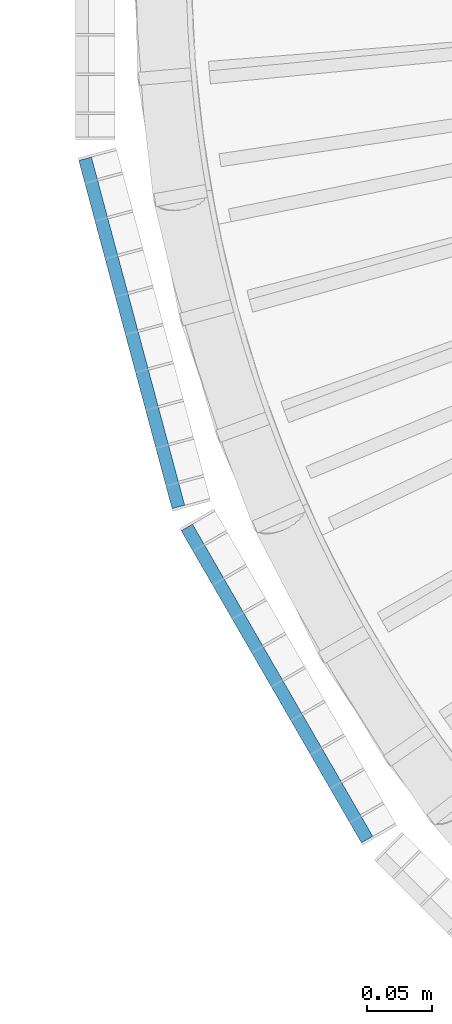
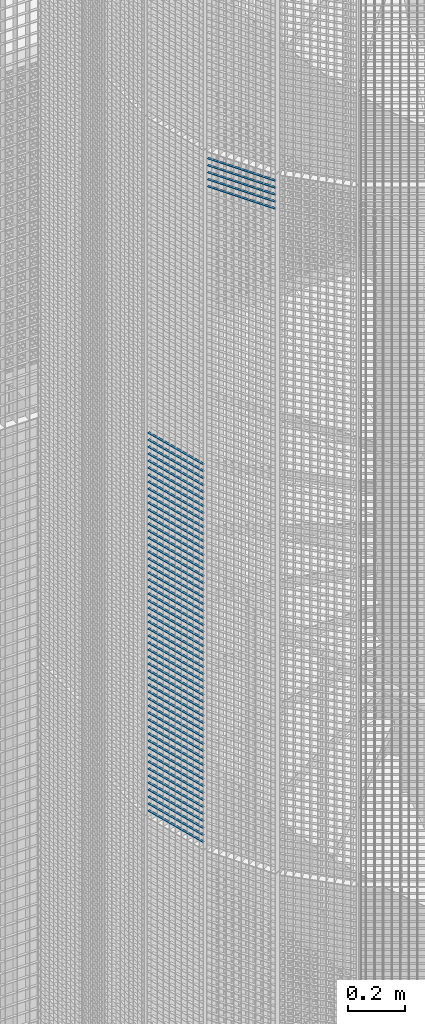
# One storey, part 341 of 1148: 60 beams, 2 elements without a shape of their own.
"""IFC2X3 building model written with IfcOpenShell, lengths in millimetres."""

from ifc_helpers import new_model, si_unit, frame, origin_with_axes, origin_2d_with_axis, place, context, subcontext, project, spatial, rectangle, extrude, material, type_object, element, aggregate, save


model = new_model("IFC2X3")

# Units and contexts
model_context = context("Model", 3, precision=1e-05, world=origin_with_axes())
body_context = subcontext(model_context, "Body", "Model", "MODEL_VIEW")
ifc_project = project(units=[si_unit("LENGTHUNIT", "METRE", prefix="MILLI"), si_unit("AREAUNIT", "SQUARE_METRE"), si_unit("VOLUMEUNIT", "CUBIC_METRE"), si_unit("MASSUNIT", "GRAM", prefix="KILO"), si_unit("TIMEUNIT", "SECOND"), si_unit("PLANEANGLEUNIT", "RADIAN"), si_unit("SOLIDANGLEUNIT", "STERADIAN"), si_unit("THERMODYNAMICTEMPERATUREUNIT", "DEGREE_CELSIUS"), si_unit("LUMINOUSINTENSITYUNIT", "LUMEN")], contexts=[model_context])

# Site, building, storey
site_placement = place(None, origin_with_axes())
site = spatial("IfcSite", under=ifc_project, at=site_placement, Name="Undefined", CompositionType="ELEMENT")
building_placement = place(site_placement, origin_with_axes())
building = spatial("IfcBuilding", under=site, at=building_placement, Name="Undefined", CompositionType="ELEMENT")
storey_placement = place(building_placement, origin_with_axes())
storey = spatial("IfcBuildingStorey", under=building, at=storey_placement, Name="Undefined", CompositionType="ELEMENT", Elevation=0.0)

# Assembly, beams
assembly_1_placement = place(storey_placement, origin_with_axes())
assembly_1 = element("IfcElementAssembly", 1, at=assembly_1_placement, inside=storey, Name="BORDURE", AssemblyPlace="NOTDEFINED", PredefinedType="NOTDEFINED")
ifc_material = material(Name="STEEL/S235JR")
beam_type = type_object("IfcBeamType", Name="PL2*10", PredefinedType="NOTDEFINED")
beam_1_placement = place(assembly_1_placement, frame((20560.1769047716, -421.483733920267, 10650.0), z_axis=(-0.965925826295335, -0.258819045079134, 0.0), x_axis=(-0.258819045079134, 0.965925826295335, 0.0)))
beam_1 = element("IfcBeam", 2, at=beam_1_placement, type_object=beam_type, material=ifc_material, Name="ENTRETOISE", context=body_context, shape_type="SweptSolid", body=[
    extrude(rectangle(XDim=2.0, YDim=10.0, at=origin_2d_with_axis()), frame((275.999999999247, 9.09494701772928e-13, 1.53210777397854e-14), z_axis=(-1.0, 0.0, 0.0), x_axis=(0.0, -1.0, 0.0)), (0.0, 0.0, 1.0), 276.0),
])
beam_2_placement = place(assembly_1_placement, frame((20560.1769047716, -421.483733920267, 10620.0), z_axis=(-0.965925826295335, -0.258819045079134, 0.0), x_axis=(-0.258819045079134, 0.965925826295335, 0.0)))
beam_2 = element("IfcBeam", 3, at=beam_2_placement, type_object=beam_type, material=ifc_material, Name="ENTRETOISE", context=body_context, shape_type="SweptSolid", body=[
    extrude(rectangle(XDim=2.0, YDim=10.0, at=origin_2d_with_axis()), frame((275.999999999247, 9.09494701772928e-13, 1.53210777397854e-14), z_axis=(-1.0, 0.0, 0.0), x_axis=(0.0, -1.0, 0.0)), (0.0, 0.0, 1.0), 276.0),
])
beam_3_placement = place(assembly_1_placement, frame((20560.1769047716, -421.483733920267, 10590.0), z_axis=(-0.965925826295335, -0.258819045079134, 0.0), x_axis=(-0.258819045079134, 0.965925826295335, 0.0)))
beam_3 = element("IfcBeam", 4, at=beam_3_placement, type_object=beam_type, material=ifc_material, Name="ENTRETOISE", context=body_context, shape_type="SweptSolid", body=[
    extrude(rectangle(XDim=2.0, YDim=10.0, at=origin_2d_with_axis()), frame((275.999999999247, 9.09494701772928e-13, 1.53210777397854e-14), z_axis=(-1.0, 0.0, 0.0), x_axis=(0.0, -1.0, 0.0)), (0.0, 0.0, 1.0), 276.0),
])
beam_4_placement = place(assembly_1_placement, frame((20560.1769047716, -421.483733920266, 10560.0), z_axis=(-0.965925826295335, -0.258819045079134, 0.0), x_axis=(-0.258819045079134, 0.965925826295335, 0.0)))
beam_4 = element("IfcBeam", 5, at=beam_4_placement, type_object=beam_type, material=ifc_material, Name="ENTRETOISE", context=body_context, shape_type="SweptSolid", body=[
    extrude(rectangle(XDim=2.0, YDim=10.0, at=origin_2d_with_axis()), frame((275.999999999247, 9.09494701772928e-13, 1.53210777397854e-14), z_axis=(-1.0, 0.0, 0.0), x_axis=(0.0, -1.0, 0.0)), (0.0, 0.0, 1.0), 276.0),
])
beam_5_placement = place(assembly_1_placement, frame((20560.1769047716, -421.483733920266, 10530.0), z_axis=(-0.965925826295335, -0.258819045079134, 0.0), x_axis=(-0.258819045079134, 0.965925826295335, 0.0)))
beam_5 = element("IfcBeam", 6, at=beam_5_placement, type_object=beam_type, material=ifc_material, Name="ENTRETOISE", context=body_context, shape_type="SweptSolid", body=[
    extrude(rectangle(XDim=2.0, YDim=10.0, at=origin_2d_with_axis()), frame((275.999999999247, 9.09494701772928e-13, 1.53210777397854e-14), z_axis=(-1.0, 0.0, 0.0), x_axis=(0.0, -1.0, 0.0)), (0.0, 0.0, 1.0), 276.0),
])
beam_6_placement = place(assembly_1_placement, frame((20560.1769047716, -421.483733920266, 10500.0), z_axis=(-0.965925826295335, -0.258819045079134, 0.0), x_axis=(-0.258819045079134, 0.965925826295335, 0.0)))
beam_6 = element("IfcBeam", 7, at=beam_6_placement, type_object=beam_type, material=ifc_material, Name="ENTRETOISE", context=body_context, shape_type="SweptSolid", body=[
    extrude(rectangle(XDim=2.0, YDim=10.0, at=origin_2d_with_axis()), frame((275.999999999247, 9.09494701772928e-13, 1.53210777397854e-14), z_axis=(-1.0, 0.0, 0.0), x_axis=(0.0, -1.0, 0.0)), (0.0, 0.0, 1.0), 276.0),
])
beam_7_placement = place(assembly_1_placement, frame((20560.1769047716, -421.483733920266, 10470.0), z_axis=(-0.965925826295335, -0.258819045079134, 0.0), x_axis=(-0.258819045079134, 0.965925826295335, 0.0)))
beam_7 = element("IfcBeam", 8, at=beam_7_placement, type_object=beam_type, material=ifc_material, Name="ENTRETOISE", context=body_context, shape_type="SweptSolid", body=[
    extrude(rectangle(XDim=2.0, YDim=10.0, at=origin_2d_with_axis()), frame((275.999999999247, 9.09494701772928e-13, 1.53210777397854e-14), z_axis=(-1.0, 0.0, 0.0), x_axis=(0.0, -1.0, 0.0)), (0.0, 0.0, 1.0), 276.0),
])
beam_8_placement = place(assembly_1_placement, frame((20560.1769047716, -421.483733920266, 10440.0), z_axis=(-0.965925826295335, -0.258819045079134, 0.0), x_axis=(-0.258819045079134, 0.965925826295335, 0.0)))
beam_8 = element("IfcBeam", 9, at=beam_8_placement, type_object=beam_type, material=ifc_material, Name="ENTRETOISE", context=body_context, shape_type="SweptSolid", body=[
    extrude(rectangle(XDim=2.0, YDim=10.0, at=origin_2d_with_axis()), frame((275.999999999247, 9.09494701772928e-13, 1.53210777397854e-14), z_axis=(-1.0, 0.0, 0.0), x_axis=(0.0, -1.0, 0.0)), (0.0, 0.0, 1.0), 276.0),
])
beam_9_placement = place(assembly_1_placement, frame((20560.1769047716, -421.483733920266, 10410.0), z_axis=(-0.965925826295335, -0.258819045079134, 0.0), x_axis=(-0.258819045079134, 0.965925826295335, 0.0)))
beam_9 = element("IfcBeam", 10, at=beam_9_placement, type_object=beam_type, material=ifc_material, Name="ENTRETOISE", context=body_context, shape_type="SweptSolid", body=[
    extrude(rectangle(XDim=2.0, YDim=10.0, at=origin_2d_with_axis()), frame((275.999999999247, 9.09494701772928e-13, 1.53210777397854e-14), z_axis=(-1.0, 0.0, 0.0), x_axis=(0.0, -1.0, 0.0)), (0.0, 0.0, 1.0), 276.0),
])
beam_10_placement = place(assembly_1_placement, frame((20560.1769047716, -421.483733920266, 10380.0), z_axis=(-0.965925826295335, -0.258819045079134, 0.0), x_axis=(-0.258819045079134, 0.965925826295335, 0.0)))
beam_10 = element("IfcBeam", 11, at=beam_10_placement, type_object=beam_type, material=ifc_material, Name="ENTRETOISE", context=body_context, shape_type="SweptSolid", body=[
    extrude(rectangle(XDim=2.0, YDim=10.0, at=origin_2d_with_axis()), frame((275.999999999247, 9.09494701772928e-13, 1.53210777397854e-14), z_axis=(-1.0, 0.0, 0.0), x_axis=(0.0, -1.0, 0.0)), (0.0, 0.0, 1.0), 276.0),
])
beam_11_placement = place(assembly_1_placement, frame((20560.1769047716, -421.483733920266, 10350.0), z_axis=(-0.965925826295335, -0.258819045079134, 0.0), x_axis=(-0.258819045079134, 0.965925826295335, 0.0)))
beam_11 = element("IfcBeam", 12, at=beam_11_placement, type_object=beam_type, material=ifc_material, Name="ENTRETOISE", context=body_context, shape_type="SweptSolid", body=[
    extrude(rectangle(XDim=2.0, YDim=10.0, at=origin_2d_with_axis()), frame((275.999999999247, 9.09494701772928e-13, 1.53210777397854e-14), z_axis=(-1.0, 0.0, 0.0), x_axis=(0.0, -1.0, 0.0)), (0.0, 0.0, 1.0), 276.0),
])
beam_12_placement = place(assembly_1_placement, frame((20560.1769047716, -421.483733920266, 10320.0), z_axis=(-0.965925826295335, -0.258819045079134, 0.0), x_axis=(-0.258819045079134, 0.965925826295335, 0.0)))
beam_12 = element("IfcBeam", 13, at=beam_12_placement, type_object=beam_type, material=ifc_material, Name="ENTRETOISE", context=body_context, shape_type="SweptSolid", body=[
    extrude(rectangle(XDim=2.0, YDim=10.0, at=origin_2d_with_axis()), frame((275.999999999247, 9.09494701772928e-13, 1.53210777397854e-14), z_axis=(-1.0, 0.0, 0.0), x_axis=(0.0, -1.0, 0.0)), (0.0, 0.0, 1.0), 276.0),
])
beam_13_placement = place(assembly_1_placement, frame((20560.1769047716, -421.483733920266, 10290.0), z_axis=(-0.965925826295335, -0.258819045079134, 0.0), x_axis=(-0.258819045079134, 0.965925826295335, 0.0)))
beam_13 = element("IfcBeam", 14, at=beam_13_placement, type_object=beam_type, material=ifc_material, Name="ENTRETOISE", context=body_context, shape_type="SweptSolid", body=[
    extrude(rectangle(XDim=2.0, YDim=10.0, at=origin_2d_with_axis()), frame((275.999999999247, 9.09494701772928e-13, 1.53210777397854e-14), z_axis=(-1.0, 0.0, 0.0), x_axis=(0.0, -1.0, 0.0)), (0.0, 0.0, 1.0), 276.0),
])
beam_14_placement = place(assembly_1_placement, frame((20560.1769047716, -421.483733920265, 10260.0), z_axis=(-0.965925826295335, -0.258819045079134, 0.0), x_axis=(-0.258819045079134, 0.965925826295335, 0.0)))
beam_14 = element("IfcBeam", 15, at=beam_14_placement, type_object=beam_type, material=ifc_material, Name="ENTRETOISE", context=body_context, shape_type="SweptSolid", body=[
    extrude(rectangle(XDim=2.0, YDim=10.0, at=origin_2d_with_axis()), frame((275.999999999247, 9.09494701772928e-13, 1.53210777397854e-14), z_axis=(-1.0, 0.0, 0.0), x_axis=(0.0, -1.0, 0.0)), (0.0, 0.0, 1.0), 276.0),
])
beam_15_placement = place(assembly_1_placement, frame((20560.1769047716, -421.483733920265, 10230.0), z_axis=(-0.965925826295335, -0.258819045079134, 0.0), x_axis=(-0.258819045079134, 0.965925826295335, 0.0)))
beam_15 = element("IfcBeam", 16, at=beam_15_placement, type_object=beam_type, material=ifc_material, Name="ENTRETOISE", context=body_context, shape_type="SweptSolid", body=[
    extrude(rectangle(XDim=2.0, YDim=10.0, at=origin_2d_with_axis()), frame((275.999999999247, 9.09494701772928e-13, 1.53210777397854e-14), z_axis=(-1.0, 0.0, 0.0), x_axis=(0.0, -1.0, 0.0)), (0.0, 0.0, 1.0), 276.0),
])
beam_16_placement = place(assembly_1_placement, frame((20560.1769047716, -421.483733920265, 10200.0), z_axis=(-0.965925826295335, -0.258819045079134, 0.0), x_axis=(-0.258819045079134, 0.965925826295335, 0.0)))
beam_16 = element("IfcBeam", 17, at=beam_16_placement, type_object=beam_type, material=ifc_material, Name="ENTRETOISE", context=body_context, shape_type="SweptSolid", body=[
    extrude(rectangle(XDim=2.0, YDim=10.0, at=origin_2d_with_axis()), frame((275.999999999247, 9.09494701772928e-13, 1.53210777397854e-14), z_axis=(-1.0, 0.0, 0.0), x_axis=(0.0, -1.0, 0.0)), (0.0, 0.0, 1.0), 276.0),
])
beam_17_placement = place(assembly_1_placement, frame((20560.1769047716, -421.483733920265, 10170.0), z_axis=(-0.965925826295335, -0.258819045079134, 0.0), x_axis=(-0.258819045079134, 0.965925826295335, 0.0)))
beam_17 = element("IfcBeam", 18, at=beam_17_placement, type_object=beam_type, material=ifc_material, Name="ENTRETOISE", context=body_context, shape_type="SweptSolid", body=[
    extrude(rectangle(XDim=2.0, YDim=10.0, at=origin_2d_with_axis()), frame((275.999999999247, 9.09494701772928e-13, 1.53210777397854e-14), z_axis=(-1.0, 0.0, 0.0), x_axis=(0.0, -1.0, 0.0)), (0.0, 0.0, 1.0), 276.0),
])
beam_18_placement = place(assembly_1_placement, frame((20560.1769047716, -421.483733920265, 10140.0), z_axis=(-0.965925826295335, -0.258819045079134, 0.0), x_axis=(-0.258819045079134, 0.965925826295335, 0.0)))
beam_18 = element("IfcBeam", 19, at=beam_18_placement, type_object=beam_type, material=ifc_material, Name="ENTRETOISE", context=body_context, shape_type="SweptSolid", body=[
    extrude(rectangle(XDim=2.0, YDim=10.0, at=origin_2d_with_axis()), frame((275.999999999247, 9.09494701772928e-13, 1.53210777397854e-14), z_axis=(-1.0, 0.0, 0.0), x_axis=(0.0, -1.0, 0.0)), (0.0, 0.0, 1.0), 276.0),
])
beam_19_placement = place(assembly_1_placement, frame((20560.1769047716, -421.483733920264, 9720.0), z_axis=(-0.965925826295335, -0.258819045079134, 0.0), x_axis=(-0.258819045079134, 0.965925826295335, 0.0)))
beam_19 = element("IfcBeam", 20, at=beam_19_placement, type_object=beam_type, material=ifc_material, Name="ENTRETOISE", context=body_context, shape_type="SweptSolid", body=[
    extrude(rectangle(XDim=2.0, YDim=10.0, at=origin_2d_with_axis()), frame((275.999999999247, 9.09494701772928e-13, 1.53210777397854e-14), z_axis=(-1.0, 0.0, 0.0), x_axis=(0.0, -1.0, 0.0)), (0.0, 0.0, 1.0), 276.0),
])
beam_20_placement = place(assembly_1_placement, frame((20560.1769047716, -421.483733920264, 9690.0), z_axis=(-0.965925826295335, -0.258819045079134, 0.0), x_axis=(-0.258819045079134, 0.965925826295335, 0.0)))
beam_20 = element("IfcBeam", 21, at=beam_20_placement, type_object=beam_type, material=ifc_material, Name="ENTRETOISE", context=body_context, shape_type="SweptSolid", body=[
    extrude(rectangle(XDim=2.0, YDim=10.0, at=origin_2d_with_axis()), frame((275.999999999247, 9.09494701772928e-13, 1.53210777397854e-14), z_axis=(-1.0, 0.0, 0.0), x_axis=(0.0, -1.0, 0.0)), (0.0, 0.0, 1.0), 276.0),
])
beam_21_placement = place(assembly_1_placement, frame((20560.1769047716, -421.483733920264, 9750.0), z_axis=(-0.965925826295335, -0.258819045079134, 0.0), x_axis=(-0.258819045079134, 0.965925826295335, 0.0)))
beam_21 = element("IfcBeam", 22, at=beam_21_placement, type_object=beam_type, material=ifc_material, Name="ENTRETOISE", context=body_context, shape_type="SweptSolid", body=[
    extrude(rectangle(XDim=2.0, YDim=10.0, at=origin_2d_with_axis()), frame((275.999999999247, 9.09494701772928e-13, 1.53210777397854e-14), z_axis=(-1.0, 0.0, 0.0), x_axis=(0.0, -1.0, 0.0)), (0.0, 0.0, 1.0), 276.0),
])
beam_22_placement = place(assembly_1_placement, frame((20560.1769047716, -421.483733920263, 9660.0), z_axis=(-0.965925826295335, -0.258819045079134, 0.0), x_axis=(-0.258819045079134, 0.965925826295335, 0.0)))
beam_22 = element("IfcBeam", 23, at=beam_22_placement, type_object=beam_type, material=ifc_material, Name="ENTRETOISE", context=body_context, shape_type="SweptSolid", body=[
    extrude(rectangle(XDim=2.0, YDim=10.0, at=origin_2d_with_axis()), frame((275.999999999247, 9.09494701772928e-13, 1.53210777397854e-14), z_axis=(-1.0, 0.0, 0.0), x_axis=(0.0, -1.0, 0.0)), (0.0, 0.0, 1.0), 276.0),
])
beam_23_placement = place(assembly_1_placement, frame((20560.1769047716, -421.483733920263, 9630.0), z_axis=(-0.965925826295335, -0.258819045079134, 0.0), x_axis=(-0.258819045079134, 0.965925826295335, 0.0)))
beam_23 = element("IfcBeam", 24, at=beam_23_placement, type_object=beam_type, material=ifc_material, Name="ENTRETOISE", context=body_context, shape_type="SweptSolid", body=[
    extrude(rectangle(XDim=2.0, YDim=10.0, at=origin_2d_with_axis()), frame((275.999999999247, 9.09494701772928e-13, 1.53210777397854e-14), z_axis=(-1.0, 0.0, 0.0), x_axis=(0.0, -1.0, 0.0)), (0.0, 0.0, 1.0), 276.0),
])
beam_24_placement = place(assembly_1_placement, frame((20560.1769047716, -421.483733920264, 9780.0), z_axis=(-0.965925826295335, -0.258819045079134, 0.0), x_axis=(-0.258819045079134, 0.965925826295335, 0.0)))
beam_24 = element("IfcBeam", 25, at=beam_24_placement, type_object=beam_type, material=ifc_material, Name="ENTRETOISE", context=body_context, shape_type="SweptSolid", body=[
    extrude(rectangle(XDim=2.0, YDim=10.0, at=origin_2d_with_axis()), frame((275.999999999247, 9.09494701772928e-13, 1.53210777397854e-14), z_axis=(-1.0, 0.0, 0.0), x_axis=(0.0, -1.0, 0.0)), (0.0, 0.0, 1.0), 276.0),
])
beam_25_placement = place(assembly_1_placement, frame((20560.1769047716, -421.483733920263, 9600.0), z_axis=(-0.965925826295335, -0.258819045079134, 0.0), x_axis=(-0.258819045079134, 0.965925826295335, 0.0)))
beam_25 = element("IfcBeam", 26, at=beam_25_placement, type_object=beam_type, material=ifc_material, Name="ENTRETOISE", context=body_context, shape_type="SweptSolid", body=[
    extrude(rectangle(XDim=2.0, YDim=10.0, at=origin_2d_with_axis()), frame((275.999999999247, 9.09494701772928e-13, 1.53210777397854e-14), z_axis=(-1.0, 0.0, 0.0), x_axis=(0.0, -1.0, 0.0)), (0.0, 0.0, 1.0), 276.0),
])
beam_26_placement = place(assembly_1_placement, frame((20560.1769047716, -421.483733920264, 9810.0), z_axis=(-0.965925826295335, -0.258819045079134, 0.0), x_axis=(-0.258819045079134, 0.965925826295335, 0.0)))
beam_26 = element("IfcBeam", 27, at=beam_26_placement, type_object=beam_type, material=ifc_material, Name="ENTRETOISE", context=body_context, shape_type="SweptSolid", body=[
    extrude(rectangle(XDim=2.0, YDim=10.0, at=origin_2d_with_axis()), frame((275.999999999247, 9.09494701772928e-13, 1.53210777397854e-14), z_axis=(-1.0, 0.0, 0.0), x_axis=(0.0, -1.0, 0.0)), (0.0, 0.0, 1.0), 276.0),
])
beam_27_placement = place(assembly_1_placement, frame((20560.1769047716, -421.483733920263, 9570.0), z_axis=(-0.965925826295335, -0.258819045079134, 0.0), x_axis=(-0.258819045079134, 0.965925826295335, 0.0)))
beam_27 = element("IfcBeam", 28, at=beam_27_placement, type_object=beam_type, material=ifc_material, Name="ENTRETOISE", context=body_context, shape_type="SweptSolid", body=[
    extrude(rectangle(XDim=2.0, YDim=10.0, at=origin_2d_with_axis()), frame((275.999999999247, 9.09494701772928e-13, 1.53210777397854e-14), z_axis=(-1.0, 0.0, 0.0), x_axis=(0.0, -1.0, 0.0)), (0.0, 0.0, 1.0), 276.0),
])
beam_28_placement = place(assembly_1_placement, frame((20560.1769047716, -421.483733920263, 9540.0), z_axis=(-0.965925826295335, -0.258819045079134, 0.0), x_axis=(-0.258819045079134, 0.965925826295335, 0.0)))
beam_28 = element("IfcBeam", 29, at=beam_28_placement, type_object=beam_type, material=ifc_material, Name="ENTRETOISE", context=body_context, shape_type="SweptSolid", body=[
    extrude(rectangle(XDim=2.0, YDim=10.0, at=origin_2d_with_axis()), frame((275.999999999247, 9.09494701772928e-13, 1.53210777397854e-14), z_axis=(-1.0, 0.0, 0.0), x_axis=(0.0, -1.0, 0.0)), (0.0, 0.0, 1.0), 276.0),
])
beam_29_placement = place(assembly_1_placement, frame((20560.1769047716, -421.483733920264, 9840.0), z_axis=(-0.965925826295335, -0.258819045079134, 0.0), x_axis=(-0.258819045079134, 0.965925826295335, 0.0)))
beam_29 = element("IfcBeam", 30, at=beam_29_placement, type_object=beam_type, material=ifc_material, Name="ENTRETOISE", context=body_context, shape_type="SweptSolid", body=[
    extrude(rectangle(XDim=2.0, YDim=10.0, at=origin_2d_with_axis()), frame((275.999999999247, 9.09494701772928e-13, 1.53210777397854e-14), z_axis=(-1.0, 0.0, 0.0), x_axis=(0.0, -1.0, 0.0)), (0.0, 0.0, 1.0), 276.0),
])
beam_30_placement = place(assembly_1_placement, frame((20560.1769047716, -421.483733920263, 9510.0), z_axis=(-0.965925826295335, -0.258819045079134, 0.0), x_axis=(-0.258819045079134, 0.965925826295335, 0.0)))
beam_30 = element("IfcBeam", 31, at=beam_30_placement, type_object=beam_type, material=ifc_material, Name="ENTRETOISE", context=body_context, shape_type="SweptSolid", body=[
    extrude(rectangle(XDim=2.0, YDim=10.0, at=origin_2d_with_axis()), frame((275.999999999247, 9.09494701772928e-13, 1.53210777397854e-14), z_axis=(-1.0, 0.0, 0.0), x_axis=(0.0, -1.0, 0.0)), (0.0, 0.0, 1.0), 276.0),
])
beam_31_placement = place(assembly_1_placement, frame((20560.1769047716, -421.483733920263, 9480.0), z_axis=(-0.965925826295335, -0.258819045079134, 0.0), x_axis=(-0.258819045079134, 0.965925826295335, 0.0)))
beam_31 = element("IfcBeam", 32, at=beam_31_placement, type_object=beam_type, material=ifc_material, Name="ENTRETOISE", context=body_context, shape_type="SweptSolid", body=[
    extrude(rectangle(XDim=2.0, YDim=10.0, at=origin_2d_with_axis()), frame((275.999999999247, 9.09494701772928e-13, 1.53210777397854e-14), z_axis=(-1.0, 0.0, 0.0), x_axis=(0.0, -1.0, 0.0)), (0.0, 0.0, 1.0), 276.0),
])
beam_32_placement = place(assembly_1_placement, frame((20560.1769047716, -421.483733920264, 9870.0), z_axis=(-0.965925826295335, -0.258819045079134, 0.0), x_axis=(-0.258819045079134, 0.965925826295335, 0.0)))
beam_32 = element("IfcBeam", 33, at=beam_32_placement, type_object=beam_type, material=ifc_material, Name="ENTRETOISE", context=body_context, shape_type="SweptSolid", body=[
    extrude(rectangle(XDim=2.0, YDim=10.0, at=origin_2d_with_axis()), frame((275.999999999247, 9.09494701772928e-13, 1.53210777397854e-14), z_axis=(-1.0, 0.0, 0.0), x_axis=(0.0, -1.0, 0.0)), (0.0, 0.0, 1.0), 276.0),
])
beam_33_placement = place(assembly_1_placement, frame((20560.1769047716, -421.483733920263, 9450.0), z_axis=(-0.965925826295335, -0.258819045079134, 0.0), x_axis=(-0.258819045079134, 0.965925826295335, 0.0)))
beam_33 = element("IfcBeam", 34, at=beam_33_placement, type_object=beam_type, material=ifc_material, Name="ENTRETOISE", context=body_context, shape_type="SweptSolid", body=[
    extrude(rectangle(XDim=2.0, YDim=10.0, at=origin_2d_with_axis()), frame((275.999999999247, 9.09494701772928e-13, 1.53210777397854e-14), z_axis=(-1.0, 0.0, 0.0), x_axis=(0.0, -1.0, 0.0)), (0.0, 0.0, 1.0), 276.0),
])
beam_34_placement = place(assembly_1_placement, frame((20560.1769047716, -421.483733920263, 9420.0), z_axis=(-0.965925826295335, -0.258819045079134, 0.0), x_axis=(-0.258819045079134, 0.965925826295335, 0.0)))
beam_34 = element("IfcBeam", 35, at=beam_34_placement, type_object=beam_type, material=ifc_material, Name="ENTRETOISE", context=body_context, shape_type="SweptSolid", body=[
    extrude(rectangle(XDim=2.0, YDim=10.0, at=origin_2d_with_axis()), frame((275.999999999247, 9.09494701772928e-13, 1.53210777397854e-14), z_axis=(-1.0, 0.0, 0.0), x_axis=(0.0, -1.0, 0.0)), (0.0, 0.0, 1.0), 276.0),
])
beam_35_placement = place(assembly_1_placement, frame((20560.1769047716, -421.483733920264, 9900.0), z_axis=(-0.965925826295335, -0.258819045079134, 0.0), x_axis=(-0.258819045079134, 0.965925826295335, 0.0)))
beam_35 = element("IfcBeam", 36, at=beam_35_placement, type_object=beam_type, material=ifc_material, Name="ENTRETOISE", context=body_context, shape_type="SweptSolid", body=[
    extrude(rectangle(XDim=2.0, YDim=10.0, at=origin_2d_with_axis()), frame((275.999999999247, 9.09494701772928e-13, 1.53210777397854e-14), z_axis=(-1.0, 0.0, 0.0), x_axis=(0.0, -1.0, 0.0)), (0.0, 0.0, 1.0), 276.0),
])
beam_36_placement = place(assembly_1_placement, frame((20560.1769047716, -421.483733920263, 9390.0), z_axis=(-0.965925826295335, -0.258819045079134, 0.0), x_axis=(-0.258819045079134, 0.965925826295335, 0.0)))
beam_36 = element("IfcBeam", 37, at=beam_36_placement, type_object=beam_type, material=ifc_material, Name="ENTRETOISE", context=body_context, shape_type="SweptSolid", body=[
    extrude(rectangle(XDim=2.0, YDim=10.0, at=origin_2d_with_axis()), frame((275.999999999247, 9.09494701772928e-13, 1.53210777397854e-14), z_axis=(-1.0, 0.0, 0.0), x_axis=(0.0, -1.0, 0.0)), (0.0, 0.0, 1.0), 276.0),
])
beam_37_placement = place(assembly_1_placement, frame((20560.1769047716, -421.483733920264, 9930.0), z_axis=(-0.965925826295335, -0.258819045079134, 0.0), x_axis=(-0.258819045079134, 0.965925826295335, 0.0)))
beam_37 = element("IfcBeam", 38, at=beam_37_placement, type_object=beam_type, material=ifc_material, Name="ENTRETOISE", context=body_context, shape_type="SweptSolid", body=[
    extrude(rectangle(XDim=2.0, YDim=10.0, at=origin_2d_with_axis()), frame((275.999999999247, 9.09494701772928e-13, 1.53210777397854e-14), z_axis=(-1.0, 0.0, 0.0), x_axis=(0.0, -1.0, 0.0)), (0.0, 0.0, 1.0), 276.0),
])
beam_38_placement = place(assembly_1_placement, frame((20560.1769047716, -421.483733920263, 9360.0), z_axis=(-0.965925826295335, -0.258819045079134, 0.0), x_axis=(-0.258819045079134, 0.965925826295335, 0.0)))
beam_38 = element("IfcBeam", 39, at=beam_38_placement, type_object=beam_type, material=ifc_material, Name="ENTRETOISE", context=body_context, shape_type="SweptSolid", body=[
    extrude(rectangle(XDim=2.0, YDim=10.0, at=origin_2d_with_axis()), frame((275.999999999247, 9.09494701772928e-13, 1.53210777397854e-14), z_axis=(-1.0, 0.0, 0.0), x_axis=(0.0, -1.0, 0.0)), (0.0, 0.0, 1.0), 276.0),
])
beam_39_placement = place(assembly_1_placement, frame((20560.1769047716, -421.483733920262, 9330.0), z_axis=(-0.965925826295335, -0.258819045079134, 0.0), x_axis=(-0.258819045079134, 0.965925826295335, 0.0)))
beam_39 = element("IfcBeam", 40, at=beam_39_placement, type_object=beam_type, material=ifc_material, Name="ENTRETOISE", context=body_context, shape_type="SweptSolid", body=[
    extrude(rectangle(XDim=2.0, YDim=10.0, at=origin_2d_with_axis()), frame((275.999999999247, 9.09494701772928e-13, 1.53210777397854e-14), z_axis=(-1.0, 0.0, 0.0), x_axis=(0.0, -1.0, 0.0)), (0.0, 0.0, 1.0), 276.0),
])
beam_40_placement = place(assembly_1_placement, frame((20560.1769047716, -421.483733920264, 9960.0), z_axis=(-0.965925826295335, -0.258819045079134, 0.0), x_axis=(-0.258819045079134, 0.965925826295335, 0.0)))
beam_40 = element("IfcBeam", 41, at=beam_40_placement, type_object=beam_type, material=ifc_material, Name="ENTRETOISE", context=body_context, shape_type="SweptSolid", body=[
    extrude(rectangle(XDim=2.0, YDim=10.0, at=origin_2d_with_axis()), frame((275.999999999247, 9.09494701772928e-13, 1.53210777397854e-14), z_axis=(-1.0, 0.0, 0.0), x_axis=(0.0, -1.0, 0.0)), (0.0, 0.0, 1.0), 276.0),
])
beam_41_placement = place(assembly_1_placement, frame((20560.1769047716, -421.483733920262, 9300.0), z_axis=(-0.965925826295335, -0.258819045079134, 0.0), x_axis=(-0.258819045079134, 0.965925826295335, 0.0)))
beam_41 = element("IfcBeam", 42, at=beam_41_placement, type_object=beam_type, material=ifc_material, Name="ENTRETOISE", context=body_context, shape_type="SweptSolid", body=[
    extrude(rectangle(XDim=2.0, YDim=10.0, at=origin_2d_with_axis()), frame((275.999999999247, 9.09494701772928e-13, 1.53210777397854e-14), z_axis=(-1.0, 0.0, 0.0), x_axis=(0.0, -1.0, 0.0)), (0.0, 0.0, 1.0), 276.0),
])
beam_42_placement = place(assembly_1_placement, frame((20560.1769047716, -421.483733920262, 9270.0), z_axis=(-0.965925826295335, -0.258819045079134, 0.0), x_axis=(-0.258819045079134, 0.965925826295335, 0.0)))
beam_42 = element("IfcBeam", 43, at=beam_42_placement, type_object=beam_type, material=ifc_material, Name="ENTRETOISE", context=body_context, shape_type="SweptSolid", body=[
    extrude(rectangle(XDim=2.0, YDim=10.0, at=origin_2d_with_axis()), frame((275.999999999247, 9.09494701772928e-13, 1.53210777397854e-14), z_axis=(-1.0, 0.0, 0.0), x_axis=(0.0, -1.0, 0.0)), (0.0, 0.0, 1.0), 276.0),
])
beam_43_placement = place(assembly_1_placement, frame((20560.1769047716, -421.483733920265, 9990.0), z_axis=(-0.965925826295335, -0.258819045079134, 0.0), x_axis=(-0.258819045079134, 0.965925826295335, 0.0)))
beam_43 = element("IfcBeam", 44, at=beam_43_placement, type_object=beam_type, material=ifc_material, Name="ENTRETOISE", context=body_context, shape_type="SweptSolid", body=[
    extrude(rectangle(XDim=2.0, YDim=10.0, at=origin_2d_with_axis()), frame((275.999999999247, 9.09494701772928e-13, 1.53210777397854e-14), z_axis=(-1.0, 0.0, 0.0), x_axis=(0.0, -1.0, 0.0)), (0.0, 0.0, 1.0), 276.0),
])
beam_44_placement = place(assembly_1_placement, frame((20560.1769047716, -421.483733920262, 9240.0), z_axis=(-0.965925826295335, -0.258819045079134, 0.0), x_axis=(-0.258819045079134, 0.965925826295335, 0.0)))
beam_44 = element("IfcBeam", 45, at=beam_44_placement, type_object=beam_type, material=ifc_material, Name="ENTRETOISE", context=body_context, shape_type="SweptSolid", body=[
    extrude(rectangle(XDim=2.0, YDim=10.0, at=origin_2d_with_axis()), frame((275.999999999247, 9.09494701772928e-13, 1.53210777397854e-14), z_axis=(-1.0, 0.0, 0.0), x_axis=(0.0, -1.0, 0.0)), (0.0, 0.0, 1.0), 276.0),
])
beam_45_placement = place(assembly_1_placement, frame((20560.1769047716, -421.483733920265, 10020.0), z_axis=(-0.965925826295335, -0.258819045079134, 0.0), x_axis=(-0.258819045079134, 0.965925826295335, 0.0)))
beam_45 = element("IfcBeam", 46, at=beam_45_placement, type_object=beam_type, material=ifc_material, Name="ENTRETOISE", context=body_context, shape_type="SweptSolid", body=[
    extrude(rectangle(XDim=2.0, YDim=10.0, at=origin_2d_with_axis()), frame((275.999999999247, 9.09494701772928e-13, 1.53210777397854e-14), z_axis=(-1.0, 0.0, 0.0), x_axis=(0.0, -1.0, 0.0)), (0.0, 0.0, 1.0), 276.0),
])
beam_46_placement = place(assembly_1_placement, frame((20560.1769047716, -421.483733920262, 9210.0), z_axis=(-0.965925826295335, -0.258819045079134, 0.0), x_axis=(-0.258819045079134, 0.965925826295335, 0.0)))
beam_46 = element("IfcBeam", 47, at=beam_46_placement, type_object=beam_type, material=ifc_material, Name="ENTRETOISE", context=body_context, shape_type="SweptSolid", body=[
    extrude(rectangle(XDim=2.0, YDim=10.0, at=origin_2d_with_axis()), frame((275.999999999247, 9.09494701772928e-13, 1.53210777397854e-14), z_axis=(-1.0, 0.0, 0.0), x_axis=(0.0, -1.0, 0.0)), (0.0, 0.0, 1.0), 276.0),
])
beam_47_placement = place(assembly_1_placement, frame((20560.1769047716, -421.483733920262, 9180.0), z_axis=(-0.965925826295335, -0.258819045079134, 0.0), x_axis=(-0.258819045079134, 0.965925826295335, 0.0)))
beam_47 = element("IfcBeam", 48, at=beam_47_placement, type_object=beam_type, material=ifc_material, Name="ENTRETOISE", context=body_context, shape_type="SweptSolid", body=[
    extrude(rectangle(XDim=2.0, YDim=10.0, at=origin_2d_with_axis()), frame((275.999999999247, 9.09494701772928e-13, 1.53210777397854e-14), z_axis=(-1.0, 0.0, 0.0), x_axis=(0.0, -1.0, 0.0)), (0.0, 0.0, 1.0), 276.0),
])
beam_48_placement = place(assembly_1_placement, frame((20560.1769047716, -421.483733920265, 10050.0), z_axis=(-0.965925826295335, -0.258819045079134, 0.0), x_axis=(-0.258819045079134, 0.965925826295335, 0.0)))
beam_48 = element("IfcBeam", 49, at=beam_48_placement, type_object=beam_type, material=ifc_material, Name="ENTRETOISE", context=body_context, shape_type="SweptSolid", body=[
    extrude(rectangle(XDim=2.0, YDim=10.0, at=origin_2d_with_axis()), frame((275.999999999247, 9.09494701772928e-13, 1.53210777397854e-14), z_axis=(-1.0, 0.0, 0.0), x_axis=(0.0, -1.0, 0.0)), (0.0, 0.0, 1.0), 276.0),
])
beam_49_placement = place(assembly_1_placement, frame((20560.1769047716, -421.483733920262, 9150.0), z_axis=(-0.965925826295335, -0.258819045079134, 0.0), x_axis=(-0.258819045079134, 0.965925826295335, 0.0)))
beam_49 = element("IfcBeam", 50, at=beam_49_placement, type_object=beam_type, material=ifc_material, Name="ENTRETOISE", context=body_context, shape_type="SweptSolid", body=[
    extrude(rectangle(XDim=2.0, YDim=10.0, at=origin_2d_with_axis()), frame((275.999999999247, 9.09494701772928e-13, 1.53210777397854e-14), z_axis=(-1.0, 0.0, 0.0), x_axis=(0.0, -1.0, 0.0)), (0.0, 0.0, 1.0), 276.0),
])
beam_50_placement = place(assembly_1_placement, frame((20560.1769047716, -421.483733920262, 9120.0), z_axis=(-0.965925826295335, -0.258819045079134, 0.0), x_axis=(-0.258819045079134, 0.965925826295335, 0.0)))
beam_50 = element("IfcBeam", 51, at=beam_50_placement, type_object=beam_type, material=ifc_material, Name="ENTRETOISE", context=body_context, shape_type="SweptSolid", body=[
    extrude(rectangle(XDim=2.0, YDim=10.0, at=origin_2d_with_axis()), frame((275.999999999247, 9.09494701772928e-13, 1.53210777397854e-14), z_axis=(-1.0, 0.0, 0.0), x_axis=(0.0, -1.0, 0.0)), (0.0, 0.0, 1.0), 276.0),
])
beam_51_placement = place(assembly_1_placement, frame((20560.1769047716, -421.483733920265, 10080.0), z_axis=(-0.965925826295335, -0.258819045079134, 0.0), x_axis=(-0.258819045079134, 0.965925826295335, 0.0)))
beam_51 = element("IfcBeam", 52, at=beam_51_placement, type_object=beam_type, material=ifc_material, Name="ENTRETOISE", context=body_context, shape_type="SweptSolid", body=[
    extrude(rectangle(XDim=2.0, YDim=10.0, at=origin_2d_with_axis()), frame((275.999999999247, 9.09494701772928e-13, 1.53210777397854e-14), z_axis=(-1.0, 0.0, 0.0), x_axis=(0.0, -1.0, 0.0)), (0.0, 0.0, 1.0), 276.0),
])
beam_52_placement = place(assembly_1_placement, frame((20560.1769047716, -421.483733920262, 9090.0), z_axis=(-0.965925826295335, -0.258819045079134, 0.0), x_axis=(-0.258819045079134, 0.965925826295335, 0.0)))
beam_52 = element("IfcBeam", 53, at=beam_52_placement, type_object=beam_type, material=ifc_material, Name="ENTRETOISE", context=body_context, shape_type="SweptSolid", body=[
    extrude(rectangle(XDim=2.0, YDim=10.0, at=origin_2d_with_axis()), frame((275.999999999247, 9.09494701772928e-13, 1.53210777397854e-14), z_axis=(-1.0, 0.0, 0.0), x_axis=(0.0, -1.0, 0.0)), (0.0, 0.0, 1.0), 276.0),
])
beam_53_placement = place(assembly_1_placement, frame((20560.1769047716, -421.483733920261, 9060.0), z_axis=(-0.965925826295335, -0.258819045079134, 0.0), x_axis=(-0.258819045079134, 0.965925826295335, 0.0)))
beam_53 = element("IfcBeam", 54, at=beam_53_placement, type_object=beam_type, material=ifc_material, Name="ENTRETOISE", context=body_context, shape_type="SweptSolid", body=[
    extrude(rectangle(XDim=2.0, YDim=10.0, at=origin_2d_with_axis()), frame((275.999999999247, 9.09494701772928e-13, 1.53210777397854e-14), z_axis=(-1.0, 0.0, 0.0), x_axis=(0.0, -1.0, 0.0)), (0.0, 0.0, 1.0), 276.0),
])
beam_54_placement = place(assembly_1_placement, frame((20560.1769047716, -421.483733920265, 10110.0), z_axis=(-0.965925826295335, -0.258819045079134, 0.0), x_axis=(-0.258819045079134, 0.965925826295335, 0.0)))
beam_54 = element("IfcBeam", 55, at=beam_54_placement, type_object=beam_type, material=ifc_material, Name="ENTRETOISE", context=body_context, shape_type="SweptSolid", body=[
    extrude(rectangle(XDim=2.0, YDim=10.0, at=origin_2d_with_axis()), frame((275.999999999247, 9.09494701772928e-13, 1.53210777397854e-14), z_axis=(-1.0, 0.0, 0.0), x_axis=(0.0, -1.0, 0.0)), (0.0, 0.0, 1.0), 276.0),
])
beam_55_placement = place(assembly_1_placement, frame((20560.1769047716, -421.48373392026, 9030.0), z_axis=(-0.965925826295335, -0.258819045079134, 0.0), x_axis=(-0.258819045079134, 0.965925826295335, 0.0)))
beam_55 = element("IfcBeam", 56, at=beam_55_placement, type_object=beam_type, material=ifc_material, Name="ENTRETOISE", context=body_context, shape_type="SweptSolid", body=[
    extrude(rectangle(XDim=2.0, YDim=10.0, at=origin_2d_with_axis()), frame((275.999999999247, 9.09494701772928e-13, 1.53210777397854e-14), z_axis=(-1.0, 0.0, 0.0), x_axis=(0.0, -1.0, 0.0)), (0.0, 0.0, 1.0), 276.0),
])
aggregate(assembly_1, [beam_1, beam_2, beam_3, beam_4, beam_5, beam_6, beam_7, beam_8, beam_9, beam_10, beam_11, beam_12, beam_13, beam_14, beam_15, beam_16, beam_17, beam_18, beam_19, beam_20, beam_21, beam_22, beam_23, beam_24, beam_25, beam_26, beam_27, beam_28, beam_29, beam_30, beam_31, beam_32, beam_33, beam_34, beam_35, beam_36, beam_37, beam_38, beam_39, beam_40, beam_41, beam_42, beam_43, beam_44, beam_45, beam_46, beam_47, beam_48, beam_49, beam_50, beam_51, beam_52, beam_53, beam_54, beam_55])

assembly_2_placement = place(storey_placement, origin_with_axes())
assembly_2 = element("IfcElementAssembly", 57, at=assembly_2_placement, inside=storey, Name="BORDURE", AssemblyPlace="NOTDEFINED", PredefinedType="NOTDEFINED")
beam_56_placement = place(assembly_2_placement, frame((20704.6960350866, -676.248044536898, 11970.0), z_axis=(-0.866025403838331, -0.499999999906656, 0.0), x_axis=(-0.49999999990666, 0.866025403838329, 0.0)))
beam_56 = element("IfcBeam", 58, at=beam_56_placement, type_object=beam_type, material=ifc_material, Name="ENTRETOISE", context=body_context, shape_type="SweptSolid", body=[
    extrude(rectangle(XDim=2.0, YDim=10.0, at=origin_2d_with_axis()), frame((275.999999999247, 9.09494701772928e-13, 1.53210777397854e-14), z_axis=(-1.0, 0.0, 0.0), x_axis=(0.0, -1.0, 0.0)), (0.0, 0.0, 1.0), 276.0),
])
beam_57_placement = place(assembly_2_placement, frame((20704.6960350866, -676.248044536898, 11940.0), z_axis=(-0.866025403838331, -0.499999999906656, 0.0), x_axis=(-0.49999999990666, 0.866025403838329, 0.0)))
beam_57 = element("IfcBeam", 59, at=beam_57_placement, type_object=beam_type, material=ifc_material, Name="ENTRETOISE", context=body_context, shape_type="SweptSolid", body=[
    extrude(rectangle(XDim=2.0, YDim=10.0, at=origin_2d_with_axis()), frame((275.999999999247, 9.09494701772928e-13, 1.53210777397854e-14), z_axis=(-1.0, 0.0, 0.0), x_axis=(0.0, -1.0, 0.0)), (0.0, 0.0, 1.0), 276.0),
])
beam_58_placement = place(assembly_2_placement, frame((20704.6960350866, -676.248044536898, 11910.0), z_axis=(-0.866025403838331, -0.499999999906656, 0.0), x_axis=(-0.49999999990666, 0.866025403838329, 0.0)))
beam_58 = element("IfcBeam", 60, at=beam_58_placement, type_object=beam_type, material=ifc_material, Name="ENTRETOISE", context=body_context, shape_type="SweptSolid", body=[
    extrude(rectangle(XDim=2.0, YDim=10.0, at=origin_2d_with_axis()), frame((275.999999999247, 9.09494701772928e-13, 1.53210777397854e-14), z_axis=(-1.0, 0.0, 0.0), x_axis=(0.0, -1.0, 0.0)), (0.0, 0.0, 1.0), 276.0),
])
beam_59_placement = place(assembly_2_placement, frame((20704.6960350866, -676.248044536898, 11880.0), z_axis=(-0.866025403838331, -0.499999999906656, 0.0), x_axis=(-0.49999999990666, 0.866025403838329, 0.0)))
beam_59 = element("IfcBeam", 61, at=beam_59_placement, type_object=beam_type, material=ifc_material, Name="ENTRETOISE", context=body_context, shape_type="SweptSolid", body=[
    extrude(rectangle(XDim=2.0, YDim=10.0, at=origin_2d_with_axis()), frame((275.999999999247, 9.09494701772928e-13, 1.53210777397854e-14), z_axis=(-1.0, 0.0, 0.0), x_axis=(0.0, -1.0, 0.0)), (0.0, 0.0, 1.0), 276.0),
])
beam_60_placement = place(assembly_2_placement, frame((20704.6960350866, -676.248044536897, 11850.0), z_axis=(-0.866025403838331, -0.499999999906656, 0.0), x_axis=(-0.49999999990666, 0.866025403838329, 0.0)))
beam_60 = element("IfcBeam", 62, at=beam_60_placement, type_object=beam_type, material=ifc_material, Name="ENTRETOISE", context=body_context, shape_type="SweptSolid", body=[
    extrude(rectangle(XDim=2.0, YDim=10.0, at=origin_2d_with_axis()), frame((275.999999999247, 9.09494701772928e-13, 1.53210777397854e-14), z_axis=(-1.0, 0.0, 0.0), x_axis=(0.0, -1.0, 0.0)), (0.0, 0.0, 1.0), 276.0),
])
aggregate(assembly_2, [beam_56, beam_57, beam_58, beam_59, beam_60])

save(model, "model.ifc")
